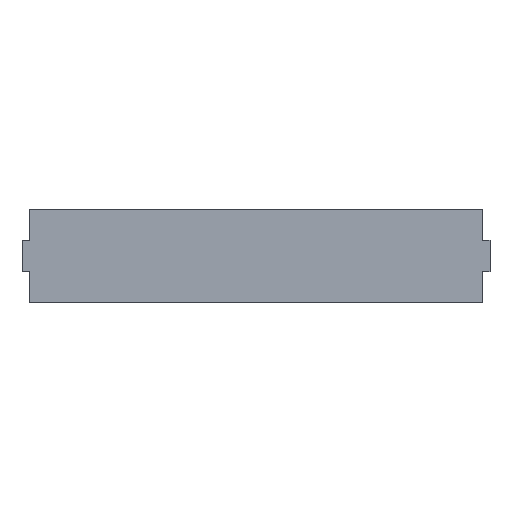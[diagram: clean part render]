
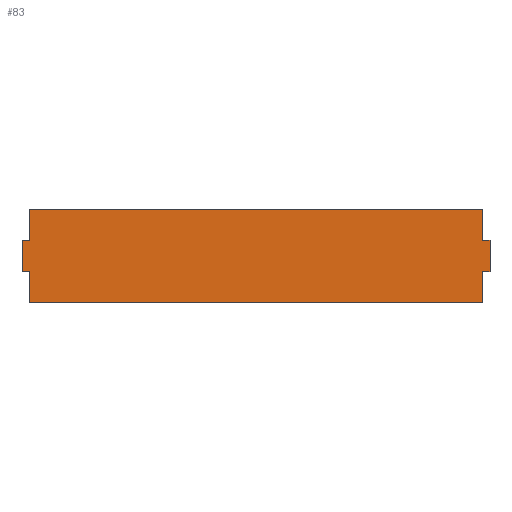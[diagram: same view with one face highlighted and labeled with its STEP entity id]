
A CAD part, top view. The second image highlights one B-rep face of the part: STEP entity #83.
In plain terms, the highlighted planar face has unit normal (0, 0, 1).
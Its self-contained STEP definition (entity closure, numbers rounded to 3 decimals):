
#8 = DIRECTION ( 'NONE',  ( -1., 0., 0. ) ) ;
#10 = EDGE_CURVE ( 'NONE', #103, #458, #13, .T. ) ;
#13 = LINE ( 'NONE', #442, #15 ) ;
#15 = VECTOR ( 'NONE', #231, 1000. ) ;
#19 = PLANE ( 'NONE',  #97 ) ;
#27 = VECTOR ( 'NONE', #256, 1000. ) ;
#28 = LINE ( 'NONE', #353, #266 ) ;
#29 = ORIENTED_EDGE ( 'NONE', *, *, #120, .T. ) ;
#32 = VERTEX_POINT ( 'NONE', #199 ) ;
#45 = DIRECTION ( 'NONE',  ( 1., 0., 0. ) ) ;
#47 = LINE ( 'NONE', #191, #234 ) ;
#51 = ORIENTED_EDGE ( 'NONE', *, *, #300, .T. ) ;
#56 = ORIENTED_EDGE ( 'NONE', *, *, #10, .T. ) ;
#64 = ORIENTED_EDGE ( 'NONE', *, *, #310, .T. ) ;
#67 = CARTESIAN_POINT ( 'NONE',  ( -776.168, 170.509, 10. ) ) ;
#74 = LINE ( 'NONE', #222, #406 ) ;
#83 = ADVANCED_FACE ( 'NONE', ( #236 ), #19, .T. ) ;
#94 = CARTESIAN_POINT ( 'NONE',  ( -776.168, 220.509, 10. ) ) ;
#97 = AXIS2_PLACEMENT_3D ( 'NONE', #167, #306, #448 ) ;
#98 = DIRECTION ( 'NONE',  ( -1., 0., 0. ) ) ;
#99 = CARTESIAN_POINT ( 'NONE',  ( -48.168, 170.509, 10. ) ) ;
#103 = VERTEX_POINT ( 'NONE', #192 ) ;
#106 = EDGE_CURVE ( 'NONE', #286, #142, #292, .T. ) ;
#117 = CARTESIAN_POINT ( 'NONE',  ( -36.168, 220.509, 10. ) ) ;
#120 = EDGE_CURVE ( 'NONE', #416, #308, #326, .T. ) ;
#140 = CARTESIAN_POINT ( 'NONE',  ( -776.168, 170.509, 10. ) ) ;
#142 = VERTEX_POINT ( 'NONE', #261 ) ;
#145 = ORIENTED_EDGE ( 'NONE', *, *, #106, .T. ) ;
#147 = DIRECTION ( 'NONE',  ( -1., 0., 0. ) ) ;
#158 = EDGE_CURVE ( 'NONE', #458, #286, #47, .T. ) ;
#166 = ORIENTED_EDGE ( 'NONE', *, *, #431, .T. ) ;
#167 = CARTESIAN_POINT ( 'NONE',  ( 0., 0., 10. ) ) ;
#172 = VECTOR ( 'NONE', #466, 1000. ) ;
#173 = LINE ( 'NONE', #99, #311 ) ;
#191 = CARTESIAN_POINT ( 'NONE',  ( -788.168, 220.509, 10. ) ) ;
#192 = CARTESIAN_POINT ( 'NONE',  ( -776.168, 270.509, 10. ) ) ;
#199 = CARTESIAN_POINT ( 'NONE',  ( -48.168, 220.509, 10. ) ) ;
#203 = ORIENTED_EDGE ( 'NONE', *, *, #417, .T. ) ;
#209 = CARTESIAN_POINT ( 'NONE',  ( -36.168, 220.509, 10. ) ) ;
#214 = VERTEX_POINT ( 'NONE', #259 ) ;
#219 = LINE ( 'NONE', #117, #429 ) ;
#221 = EDGE_CURVE ( 'NONE', #378, #344, #226, .T. ) ;
#222 = CARTESIAN_POINT ( 'NONE',  ( -788.168, 170.509, 10. ) ) ;
#226 = LINE ( 'NONE', #367, #443 ) ;
#228 = EDGE_CURVE ( 'NONE', #142, #317, #74, .T. ) ;
#231 = DIRECTION ( 'NONE',  ( 0., -1., 0. ) ) ;
#233 = ORIENTED_EDGE ( 'NONE', *, *, #228, .T. ) ;
#234 = VECTOR ( 'NONE', #8, 1000. ) ;
#236 = FACE_OUTER_BOUND ( 'NONE', #238, .T. ) ;
#238 = EDGE_LOOP ( 'NONE', ( #390, #145, #233, #64, #29, #51, #388, #166, #203, #354, #446, #56 ) ) ;
#246 = CARTESIAN_POINT ( 'NONE',  ( -36.168, 170.509, 10. ) ) ;
#251 = CARTESIAN_POINT ( 'NONE',  ( -788.168, 220.509, 10. ) ) ;
#256 = DIRECTION ( 'NONE',  ( 0., 1., 0. ) ) ;
#259 = CARTESIAN_POINT ( 'NONE',  ( -48.168, 270.509, 10. ) ) ;
#261 = CARTESIAN_POINT ( 'NONE',  ( -788.168, 170.509, 10. ) ) ;
#266 = VECTOR ( 'NONE', #98, 1000. ) ;
#275 = VERTEX_POINT ( 'NONE', #209 ) ;
#277 = EDGE_CURVE ( 'NONE', #214, #103, #28, .T. ) ;
#282 = DIRECTION ( 'NONE',  ( 0., -1., 0. ) ) ;
#286 = VERTEX_POINT ( 'NONE', #251 ) ;
#288 = CARTESIAN_POINT ( 'NONE',  ( -36.168, 220.509, 10. ) ) ;
#292 = LINE ( 'NONE', #435, #336 ) ;
#300 = EDGE_CURVE ( 'NONE', #308, #378, #173, .T. ) ;
#306 = DIRECTION ( 'NONE',  ( 0., 0., 1. ) ) ;
#308 = VERTEX_POINT ( 'NONE', #457 ) ;
#310 = EDGE_CURVE ( 'NONE', #317, #416, #459, .T. ) ;
#311 = VECTOR ( 'NONE', #312, 1000. ) ;
#312 = DIRECTION ( 'NONE',  ( 0., 1., 0. ) ) ;
#317 = VERTEX_POINT ( 'NONE', #67 ) ;
#323 = LINE ( 'NONE', #327, #172 ) ;
#326 = LINE ( 'NONE', #332, #374 ) ;
#327 = CARTESIAN_POINT ( 'NONE',  ( -48.168, 220.509, 10. ) ) ;
#328 = VECTOR ( 'NONE', #282, 1000. ) ;
#330 = CARTESIAN_POINT ( 'NONE',  ( -776.168, 120.509, 10. ) ) ;
#332 = CARTESIAN_POINT ( 'NONE',  ( -776.168, 120.509, 10. ) ) ;
#336 = VECTOR ( 'NONE', #399, 1000. ) ;
#344 = VERTEX_POINT ( 'NONE', #246 ) ;
#353 = CARTESIAN_POINT ( 'NONE',  ( -776.168, 270.509, 10. ) ) ;
#354 = ORIENTED_EDGE ( 'NONE', *, *, #404, .T. ) ;
#362 = DIRECTION ( 'NONE',  ( 1., 0., 0. ) ) ;
#367 = CARTESIAN_POINT ( 'NONE',  ( -36.168, 170.509, 10. ) ) ;
#374 = VECTOR ( 'NONE', #45, 1000. ) ;
#378 = VERTEX_POINT ( 'NONE', #433 ) ;
#388 = ORIENTED_EDGE ( 'NONE', *, *, #221, .T. ) ;
#390 = ORIENTED_EDGE ( 'NONE', *, *, #158, .T. ) ;
#396 = DIRECTION ( 'NONE',  ( 1., 0., 0. ) ) ;
#399 = DIRECTION ( 'NONE',  ( 0., -1., 0. ) ) ;
#404 = EDGE_CURVE ( 'NONE', #32, #214, #323, .T. ) ;
#406 = VECTOR ( 'NONE', #362, 1000. ) ;
#416 = VERTEX_POINT ( 'NONE', #330 ) ;
#417 = EDGE_CURVE ( 'NONE', #275, #32, #219, .T. ) ;
#429 = VECTOR ( 'NONE', #147, 1000. ) ;
#430 = LINE ( 'NONE', #288, #27 ) ;
#431 = EDGE_CURVE ( 'NONE', #344, #275, #430, .T. ) ;
#433 = CARTESIAN_POINT ( 'NONE',  ( -48.168, 170.509, 10. ) ) ;
#435 = CARTESIAN_POINT ( 'NONE',  ( -788.168, 220.509, 10. ) ) ;
#442 = CARTESIAN_POINT ( 'NONE',  ( -776.168, 220.509, 10. ) ) ;
#443 = VECTOR ( 'NONE', #396, 1000. ) ;
#446 = ORIENTED_EDGE ( 'NONE', *, *, #277, .T. ) ;
#448 = DIRECTION ( 'NONE',  ( 1., 0., 0. ) ) ;
#457 = CARTESIAN_POINT ( 'NONE',  ( -48.168, 120.509, 10. ) ) ;
#458 = VERTEX_POINT ( 'NONE', #94 ) ;
#459 = LINE ( 'NONE', #140, #328 ) ;
#466 = DIRECTION ( 'NONE',  ( 0., 1., 0. ) ) ;
